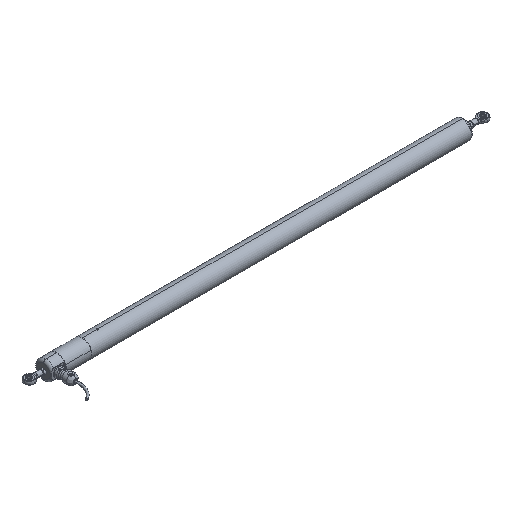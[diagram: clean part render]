
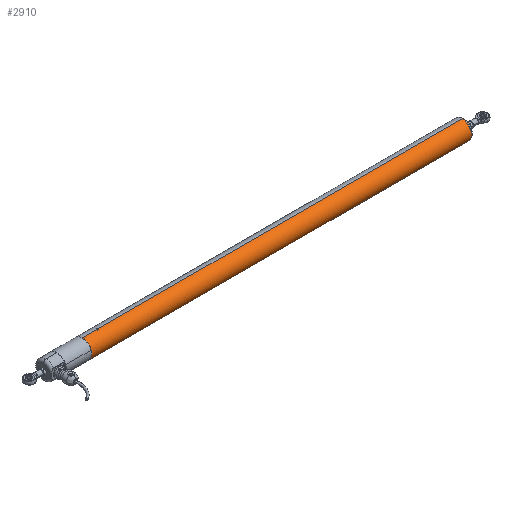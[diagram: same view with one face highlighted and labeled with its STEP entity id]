
A CAD part, isometric view. The second image highlights one B-rep face of the part: STEP entity #2910.
In plain terms, the highlighted cylindrical face has radius 17.5 mm (diameter 35 mm), a partial arc.
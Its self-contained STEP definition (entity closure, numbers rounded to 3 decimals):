
#29 = CARTESIAN_POINT ( 'NONE',  ( 30.05, -1.58, -18.214 ) ) ;
#123 = CARTESIAN_POINT ( 'NONE',  ( 30.587, -1.939, -18.197 ) ) ;
#220 = DIRECTION ( 'NONE',  ( 0., 0., 1. ) ) ;
#245 = CARTESIAN_POINT ( 'NONE',  ( 29.85, -0.965, 16.776 ) ) ;
#305 = CARTESIAN_POINT ( 'NONE',  ( 2.85, -0.965, -0.724 ) ) ;
#311 = CARTESIAN_POINT ( 'NONE',  ( 30.347, -1.839, 16.754 ) ) ;
#345 = CARTESIAN_POINT ( 'NONE',  ( 31.85, -0.965, 16.776 ) ) ;
#412 = CIRCLE ( 'NONE', #3735, 17.5 ) ;
#486 = CARTESIAN_POINT ( 'NONE',  ( 29.85, -1.096, 16.776 ) ) ;
#522 = VERTEX_POINT ( 'NONE', #5294 ) ;
#539 = ORIENTED_EDGE ( 'NONE', *, *, #814, .T. ) ;
#567 = CARTESIAN_POINT ( 'NONE',  ( 30.345, -1.839, -18.202 ) ) ;
#814 = EDGE_CURVE ( 'NONE', #522, #862, #2687, .T. ) ;
#862 = VERTEX_POINT ( 'NONE', #1426 ) ;
#875 = CARTESIAN_POINT ( 'NONE',  ( 31.85, -1.098, 16.776 ) ) ;
#922 = EDGE_CURVE ( 'NONE', #3650, #1471, #412, .T. ) ;
#928 = CARTESIAN_POINT ( 'NONE',  ( 30.235, -1.764, -18.206 ) ) ;
#933 = CARTESIAN_POINT ( 'NONE',  ( 2.85, -0.965, -18.224 ) ) ;
#937 = CARTESIAN_POINT ( 'NONE',  ( 29.976, -1.469, 16.769 ) ) ;
#958 = CARTESIAN_POINT ( 'NONE',  ( 31.111, -1.94, -18.197 ) ) ;
#1019 = CARTESIAN_POINT ( 'NONE',  ( 31.741, -1.489, -18.217 ) ) ;
#1126 = CARTESIAN_POINT ( 'NONE',  ( 31.85, -0.965, 16.776 ) ) ;
#1216 = CARTESIAN_POINT ( 'NONE',  ( 2.85, -0.965, -0.724 ) ) ;
#1220 = EDGE_CURVE ( 'NONE', #4801, #3650, #4117, .T. ) ;
#1274 = CARTESIAN_POINT ( 'NONE',  ( 30.236, -1.766, 16.758 ) ) ;
#1380 = VERTEX_POINT ( 'NONE', #245 ) ;
#1382 = CARTESIAN_POINT ( 'NONE',  ( 30.981, -1.966, -18.196 ) ) ;
#1426 = CARTESIAN_POINT ( 'NONE',  ( 716.35, -0.965, 16.776 ) ) ;
#1446 = CARTESIAN_POINT ( 'NONE',  ( 2.85, -0.965, 16.776 ) ) ;
#1471 = VERTEX_POINT ( 'NONE', #3531 ) ;
#1520 = EDGE_CURVE ( 'NONE', #4801, #2375, #3851, .T. ) ;
#1659 = VECTOR ( 'NONE', #1885, 1000. ) ;
#1661 = DIRECTION ( 'NONE',  ( -1., 0., 0. ) ) ;
#1663 = CARTESIAN_POINT ( 'NONE',  ( 31.649, -1.58, 16.765 ) ) ;
#1720 = CARTESIAN_POINT ( 'NONE',  ( 31.824, -1.227, 16.774 ) ) ;
#1848 = CARTESIAN_POINT ( 'NONE',  ( 31.85, -1.23, -18.224 ) ) ;
#1882 = LINE ( 'NONE', #1446, #1895 ) ;
#1885 = DIRECTION ( 'NONE',  ( -1., 0., 0. ) ) ;
#1895 = VECTOR ( 'NONE', #3688, 1000. ) ;
#1931 = AXIS2_PLACEMENT_3D ( 'NONE', #3793, #5565, #2333 ) ;
#1957 = CARTESIAN_POINT ( 'NONE',  ( 2.85, -0.965, -18.224 ) ) ;
#2087 = DIRECTION ( 'NONE',  ( -1., 0., 0. ) ) ;
#2204 = CARTESIAN_POINT ( 'NONE',  ( 2.85, -0.965, 16.776 ) ) ;
#2282 = CARTESIAN_POINT ( 'NONE',  ( 29.976, -1.468, -18.217 ) ) ;
#2285 = ORIENTED_EDGE ( 'NONE', *, *, #1220, .F. ) ;
#2333 = DIRECTION ( 'NONE',  ( 0., 0., 1. ) ) ;
#2375 = VERTEX_POINT ( 'NONE', #4136 ) ;
#2460 = ORIENTED_EDGE ( 'NONE', *, *, #922, .F. ) ;
#2541 = EDGE_CURVE ( 'NONE', #522, #2375, #5109, .T. ) ;
#2687 = CIRCLE ( 'NONE', #1931, 17.5 ) ;
#2735 = CARTESIAN_POINT ( 'NONE',  ( 31.353, -1.839, -18.202 ) ) ;
#2804 = CARTESIAN_POINT ( 'NONE',  ( 29.876, -1.227, 16.774 ) ) ;
#2910 = ADVANCED_FACE ( 'NONE', ( #5765 ), #5300, .T. ) ;
#2918 = VECTOR ( 'NONE', #4673, 1000. ) ;
#2958 = B_SPLINE_CURVE_WITH_KNOTS ( 'NONE', 3,
 ( #345, #875, #1720, #5686, #1663, #3511, #5302, #3453, #5248, #3013, #4378, #311, #1274, #4880, #937, #2804, #486, #4124 ),
 .UNSPECIFIED., .F., .F.,
 ( 4, 2, 2, 2, 2, 2, 2, 2, 4 ),
 ( 0., 0., 0.001, 0.001, 0.002, 0.002, 0.002, 0.003, 0.003 ),
 .UNSPECIFIED. ) ;
#2986 = EDGE_CURVE ( 'NONE', #1380, #1471, #4432, .T. ) ;
#3013 = CARTESIAN_POINT ( 'NONE',  ( 30.72, -1.965, 16.747 ) ) ;
#3177 = CARTESIAN_POINT ( 'NONE',  ( 29.85, -0.965, -18.224 ) ) ;
#3306 = EDGE_CURVE ( 'NONE', #862, #5009, #1882, .T. ) ;
#3397 = VECTOR ( 'NONE', #1661, 1000. ) ;
#3413 = ORIENTED_EDGE ( 'NONE', *, *, #1520, .T. ) ;
#3432 = ORIENTED_EDGE ( 'NONE', *, *, #2986, .T. ) ;
#3453 = CARTESIAN_POINT ( 'NONE',  ( 31.112, -1.939, 16.749 ) ) ;
#3511 = CARTESIAN_POINT ( 'NONE',  ( 31.465, -1.765, 16.758 ) ) ;
#3523 = ORIENTED_EDGE ( 'NONE', *, *, #3306, .T. ) ;
#3531 = CARTESIAN_POINT ( 'NONE',  ( 2.85, -0.965, 16.776 ) ) ;
#3643 = CARTESIAN_POINT ( 'NONE',  ( 2.85, -0.965, -18.224 ) ) ;
#3650 = VERTEX_POINT ( 'NONE', #3643 ) ;
#3684 = CARTESIAN_POINT ( 'NONE',  ( 29.85, -1.096, -18.224 ) ) ;
#3688 = DIRECTION ( 'NONE',  ( -1., 0., 0. ) ) ;
#3735 = AXIS2_PLACEMENT_3D ( 'NONE', #305, #5125, #220 ) ;
#3793 = CARTESIAN_POINT ( 'NONE',  ( 716.35, -0.965, -0.724 ) ) ;
#3851 = B_SPLINE_CURVE_WITH_KNOTS ( 'NONE', 3,
 ( #3177, #3684, #5471, #2282, #29, #928, #567, #123, #4168, #1382, #958, #2735, #5063, #1019, #1848, #4540 ),
 .UNSPECIFIED., .F., .F.,
 ( 4, 2, 2, 2, 2, 2, 2, 4 ),
 ( 0.003, 0.004, 0.004, 0.004, 0.005, 0.005, 0.005, 0.006 ),
 .UNSPECIFIED. ) ;
#3934 = EDGE_CURVE ( 'NONE', #5009, #1380, #2958, .T. ) ;
#4117 = LINE ( 'NONE', #933, #1659 ) ;
#4124 = CARTESIAN_POINT ( 'NONE',  ( 29.85, -0.965, 16.776 ) ) ;
#4136 = CARTESIAN_POINT ( 'NONE',  ( 31.85, -0.965, -18.224 ) ) ;
#4168 = CARTESIAN_POINT ( 'NONE',  ( 30.717, -1.965, -18.196 ) ) ;
#4378 = CARTESIAN_POINT ( 'NONE',  ( 30.589, -1.94, 16.749 ) ) ;
#4432 = LINE ( 'NONE', #2204, #3397 ) ;
#4435 = CARTESIAN_POINT ( 'NONE',  ( 29.85, -0.965, -18.224 ) ) ;
#4538 = AXIS2_PLACEMENT_3D ( 'NONE', #1216, #2087, #5273 ) ;
#4540 = CARTESIAN_POINT ( 'NONE',  ( 31.85, -0.965, -18.224 ) ) ;
#4567 = ORIENTED_EDGE ( 'NONE', *, *, #3934, .T. ) ;
#4673 = DIRECTION ( 'NONE',  ( -1., 0., 0. ) ) ;
#4801 = VERTEX_POINT ( 'NONE', #4435 ) ;
#4880 = CARTESIAN_POINT ( 'NONE',  ( 30.05, -1.579, 16.765 ) ) ;
#5009 = VERTEX_POINT ( 'NONE', #1126 ) ;
#5063 = CARTESIAN_POINT ( 'NONE',  ( 31.464, -1.765, -18.206 ) ) ;
#5109 = LINE ( 'NONE', #1957, #2918 ) ;
#5125 = DIRECTION ( 'NONE',  ( -1., 0., 0. ) ) ;
#5172 = ORIENTED_EDGE ( 'NONE', *, *, #2541, .F. ) ;
#5248 = CARTESIAN_POINT ( 'NONE',  ( 30.981, -1.965, 16.747 ) ) ;
#5273 = DIRECTION ( 'NONE',  ( 0., 0., 1. ) ) ;
#5294 = CARTESIAN_POINT ( 'NONE',  ( 716.35, -0.965, -18.224 ) ) ;
#5300 = CYLINDRICAL_SURFACE ( 'NONE', #4538, 17.5 ) ;
#5302 = CARTESIAN_POINT ( 'NONE',  ( 31.353, -1.839, 16.754 ) ) ;
#5471 = CARTESIAN_POINT ( 'NONE',  ( 29.876, -1.228, -18.223 ) ) ;
#5544 = EDGE_LOOP ( 'NONE', ( #5172, #539, #3523, #4567, #3432, #2460, #2285, #3413 ) ) ;
#5565 = DIRECTION ( 'NONE',  ( -1., 0., 0. ) ) ;
#5686 = CARTESIAN_POINT ( 'NONE',  ( 31.724, -1.47, 16.769 ) ) ;
#5765 = FACE_OUTER_BOUND ( 'NONE', #5544, .T. ) ;
